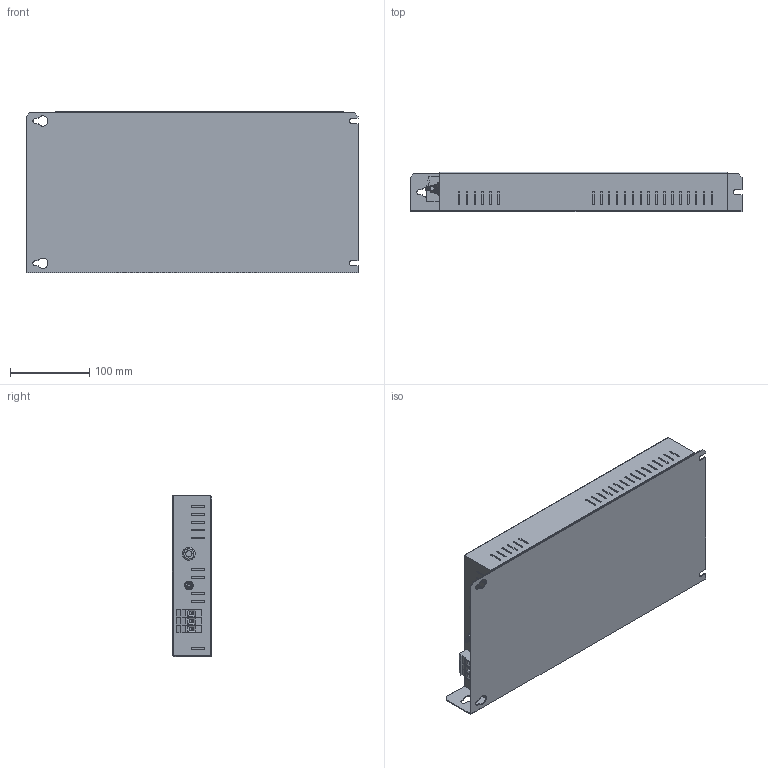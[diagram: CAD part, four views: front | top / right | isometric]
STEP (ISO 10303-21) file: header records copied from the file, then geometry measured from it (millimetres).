
FILE_DESCRIPTION (( 'STEP AP203' ), '1' );
FILE_NAME ('NF-U-LE-i550-34042.STEP', '2021-09-09T13:08:01', ( '' ), ( '' ), 'SwSTEP 2.0', 'SolidWorks 2017', '' );
FILE_SCHEMA (( 'CONFIG_CONTROL_DESIGN' ));
Length unit declared in the file: millimetre
Products named in the file (9): Grommet_15080; NF-U-LE-i550-34042; M5x20 Earth post; VDFK6x3; flat washer narrow_am_B18.22M - Plain washer, 5 mm, narrow; VDFK-6; hex screw_am_B18.6.7M - M5 x 0.8 x 13 Indented HHMS --13S; hex nut style 1_am_B18.2.4.1M - Hex nut, Style 1,  M5 x 0.8 --D-N
Assembly tree (11 placements, depth 3):
  NF-U-LE-i550-34042
    NF-U-LE-i550-34042
    VDFK6x3
      VDFK-6  x3
    M5x20 Earth post
      flat washer narrow_am_B18.22M - Plain washer, 5 mm, narrow  x2
      hex nut style 1_am_B18.2.4.1M - Hex nut, Style 1,  M5 x 0.8 --D-N
      hex screw_am_B18.6.7M - M5 x 0.8 x 13 Indented HHMS --13S
    Grommet_15080
Bounding box: 420 x 50 x 204 mm (x, y, z)
Volume: 3745220.3 mm3; surface area: 245277.4 mm2
Topology: 9 solids, 9 shells, 675 faces, 1643 edges, 1052 vertices
Faces by surface type: plane 350, cylinder 217, cone 104, torus 4
Entity records: 17548 total; most frequent: DIRECTION 2993, CARTESIAN_POINT 2968, ORIENTED_EDGE 2706, EDGE_CURVE 1353, AXIS2_PLACEMENT_3D 1105, VERTEX_POINT 872, VECTOR 783, LINE 783
